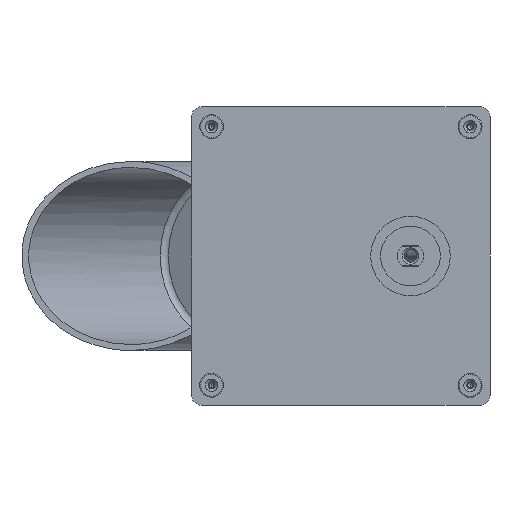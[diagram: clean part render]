
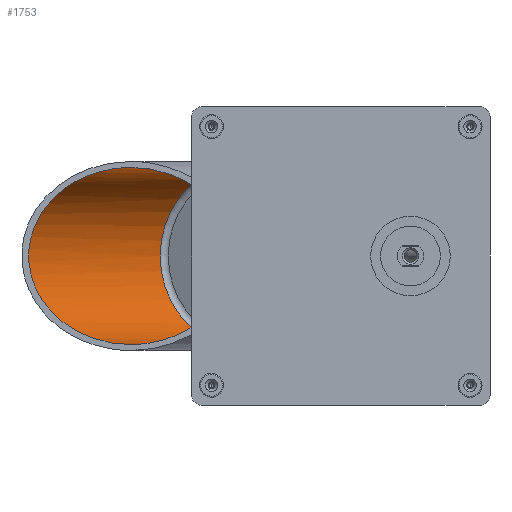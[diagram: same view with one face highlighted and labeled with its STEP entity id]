
A CAD part, front view. The second image highlights one B-rep face of the part: STEP entity #1753.
In plain terms, the highlighted cylindrical face has radius 44.5 mm (diameter 89 mm), a partial arc.
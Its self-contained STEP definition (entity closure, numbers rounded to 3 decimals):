
#415 = EDGE_CURVE ( 'NONE', #4928, #5562, #1164, .T. ) ;
#845 = CARTESIAN_POINT ( 'NONE',  ( 0., 112.576, 44.5 ) ) ;
#1164 = CIRCLE ( 'NONE', #2092, 44.5 ) ;
#1337 = DIRECTION ( 'NONE',  ( 0., 0., -1. ) ) ;
#1404 = EDGE_CURVE ( 'NONE', #9435, #4928, #1969, .T. ) ;
#1406 = DIRECTION ( 'NONE',  ( 0., -1., 0. ) ) ;
#1558 = LINE ( 'NONE', #3964, #2713 ) ;
#1596 = ORIENTED_EDGE ( 'NONE', *, *, #6587, .F. ) ;
#1753 = ADVANCED_FACE ( 'NONE', ( #6457 ), #5490, .F. ) ;
#1969 = LINE ( 'NONE', #4472, #9759 ) ;
#2092 = AXIS2_PLACEMENT_3D ( 'NONE', #7338, #1406, #1337 ) ;
#2220 = VERTEX_POINT ( 'NONE', #5513 ) ;
#2400 = ORIENTED_EDGE ( 'NONE', *, *, #1404, .T. ) ;
#2713 = VECTOR ( 'NONE', #4748, 1000. ) ;
#3578 = CARTESIAN_POINT ( 'NONE',  ( 0., 6., -44.5 ) ) ;
#3751 = DIRECTION ( 'NONE',  ( 0., -1., 0. ) ) ;
#3964 = CARTESIAN_POINT ( 'NONE',  ( 0., 0., 44.5 ) ) ;
#4169 = DIRECTION ( 'NONE',  ( 0., -1., 0. ) ) ;
#4472 = CARTESIAN_POINT ( 'NONE',  ( 0., 0., -44.5 ) ) ;
#4699 = CARTESIAN_POINT ( 'NONE',  ( 0., 6., 44.5 ) ) ;
#4748 = DIRECTION ( 'NONE',  ( 0., -1., 0. ) ) ;
#4928 = VERTEX_POINT ( 'NONE', #3578 ) ;
#5352 = CARTESIAN_POINT ( 'NONE',  ( 89., 163.96, -44.5 ) ) ;
#5490 = CYLINDRICAL_SURFACE ( 'NONE', #9375, 44.5 ) ;
#5513 = CARTESIAN_POINT ( 'NONE',  ( 0., 112.576, 44.5 ) ) ;
#5562 = VERTEX_POINT ( 'NONE', #4699 ) ;
#6457 = FACE_OUTER_BOUND ( 'NONE', #7554, .T. ) ;
#6587 = EDGE_CURVE ( 'NONE', #2220, #5562, #1558, .T. ) ;
#6829 = ORIENTED_EDGE ( 'NONE', *, *, #415, .T. ) ;
#7338 = CARTESIAN_POINT ( 'NONE',  ( 0., 6., 0. ) ) ;
#7554 = EDGE_LOOP ( 'NONE', ( #1596, #9648, #2400, #6829 ) ) ;
#7709 = CARTESIAN_POINT ( 'NONE',  ( 89., 163.96, 44.5 ) ) ;
#7767 = EDGE_CURVE ( 'NONE', #9435, #2220, #9130, .T. ) ;
#8378 = CARTESIAN_POINT ( 'NONE',  ( 0., 112.576, -44.5 ) ) ;
#8599 = CARTESIAN_POINT ( 'NONE',  ( 0., 0., 0. ) ) ;
#9130 =( BOUNDED_CURVE ( )  B_SPLINE_CURVE ( 3, ( #8378, #5352, #7709, #845 ),
 .UNSPECIFIED., .F., .T. ) 
 B_SPLINE_CURVE_WITH_KNOTS ( ( 4, 4 ),
 ( 1.571, 4.712 ),
 .UNSPECIFIED. ) 
 CURVE ( )  GEOMETRIC_REPRESENTATION_ITEM ( )  RATIONAL_B_SPLINE_CURVE ( ( 1., 0.333, 0.333, 1. ) ) 
 REPRESENTATION_ITEM ( '' )  );
#9375 = AXIS2_PLACEMENT_3D ( 'NONE', #8599, #4169, #9452 ) ;
#9435 = VERTEX_POINT ( 'NONE', #9640 ) ;
#9452 = DIRECTION ( 'NONE',  ( 0., 0., -1. ) ) ;
#9640 = CARTESIAN_POINT ( 'NONE',  ( 0., 112.576, -44.5 ) ) ;
#9648 = ORIENTED_EDGE ( 'NONE', *, *, #7767, .F. ) ;
#9759 = VECTOR ( 'NONE', #3751, 1000. ) ;
